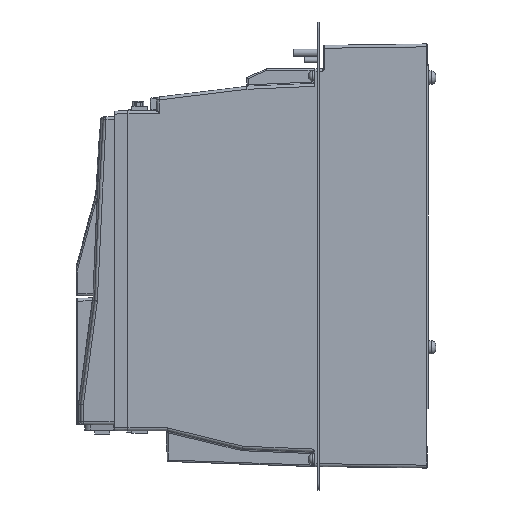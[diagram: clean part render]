
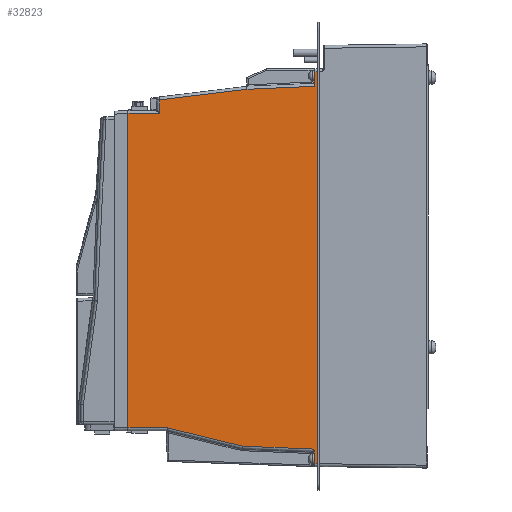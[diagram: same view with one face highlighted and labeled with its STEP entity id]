
A CAD part, left-side view. The second image highlights one B-rep face of the part: STEP entity #32823.
In plain terms, the highlighted planar face has unit normal (-1, 0, 0).
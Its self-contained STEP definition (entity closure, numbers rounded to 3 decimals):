
#587 = CARTESIAN_POINT ( 'NONE',  ( -64., 76.5, -289. ) ) ;
#631 = ORIENTED_EDGE ( 'NONE', *, *, #29192, .T. ) ;
#698 = VECTOR ( 'NONE', #41254, 1000. ) ;
#1431 = VERTEX_POINT ( 'NONE', #40690 ) ;
#2377 = VECTOR ( 'NONE', #34045, 1000. ) ;
#3419 = LINE ( 'NONE', #22280, #18746 ) ;
#3684 = VERTEX_POINT ( 'NONE', #29084 ) ;
#4037 = ORIENTED_EDGE ( 'NONE', *, *, #5081, .T. ) ;
#4062 = ORIENTED_EDGE ( 'NONE', *, *, #23159, .T. ) ;
#4363 = CARTESIAN_POINT ( 'NONE',  ( -64., 74.55, 10. ) ) ;
#5081 = EDGE_CURVE ( 'NONE', #36148, #42212, #30454, .T. ) ;
#6434 = VECTOR ( 'NONE', #38939, 1000. ) ;
#6988 = CARTESIAN_POINT ( 'NONE',  ( -64., 77.5, -277.013 ) ) ;
#7354 = EDGE_LOOP ( 'NONE', ( #22332, #4037, #26455, #21899, #47611, #30565, #4062, #37750, #37128, #631, #33795, #40749, #22693, #47368 ) ) ;
#7551 = CARTESIAN_POINT ( 'NONE',  ( -64., 76.733, -278.099 ) ) ;
#7712 = VECTOR ( 'NONE', #16266, 1000. ) ;
#7800 = CARTESIAN_POINT ( 'NONE',  ( -64., 76.652, -278.27 ) ) ;
#8282 = CARTESIAN_POINT ( 'NONE',  ( -64., 122.835, -30.995 ) ) ;
#8307 = EDGE_CURVE ( 'NONE', #18861, #16126, #18973, .T. ) ;
#9402 = VECTOR ( 'NONE', #33447, 1000. ) ;
#9478 = CARTESIAN_POINT ( 'NONE',  ( -64., 213.846, -34.952 ) ) ;
#9727 = VERTEX_POINT ( 'NONE', #27575 ) ;
#10505 = LINE ( 'NONE', #28865, #9402 ) ;
#10618 = LINE ( 'NONE', #17417, #6434 ) ;
#11036 = CARTESIAN_POINT ( 'NONE',  ( -64., 202.8, -19. ) ) ;
#11168 = CARTESIAN_POINT ( 'NONE',  ( -64., 77.259, -277.308 ) ) ;
#11739 = CARTESIAN_POINT ( 'NONE',  ( -64., 204.2, -262.5 ) ) ;
#11745 = LINE ( 'NONE', #23100, #698 ) ;
#12355 = CARTESIAN_POINT ( 'NONE',  ( -64., 125.725, -275.044 ) ) ;
#13561 = CARTESIAN_POINT ( 'NONE',  ( -64., 202.8, -47.5 ) ) ;
#13738 = EDGE_CURVE ( 'NONE', #24444, #9727, #30196, .T. ) ;
#14207 = VECTOR ( 'NONE', #36668, 1000. ) ;
#14829 = CARTESIAN_POINT ( 'NONE',  ( -64., 74.55, -287. ) ) ;
#15345 = DIRECTION ( 'NONE',  ( 0., 0., -1. ) ) ;
#15634 = AXIS2_PLACEMENT_3D ( 'NONE', #29106, #40478, #39760 ) ;
#16126 = VERTEX_POINT ( 'NONE', #31179 ) ;
#16171 = CARTESIAN_POINT ( 'NONE',  ( -64., 76.5, -279.014 ) ) ;
#16266 = DIRECTION ( 'NONE',  ( 0., 0.999, -0.043 ) ) ;
#16285 = CARTESIAN_POINT ( 'NONE',  ( -64., 177.407, -262.5 ) ) ;
#16377 = VERTEX_POINT ( 'NONE', #6988 ) ;
#16892 = EDGE_CURVE ( 'NONE', #24444, #36148, #11745, .T. ) ;
#17417 = CARTESIAN_POINT ( 'NONE',  ( -64., 232.631, -44.384 ) ) ;
#17467 = B_SPLINE_CURVE_WITH_KNOTS ( 'NONE', 3,
 ( #18918, #11168, #40919, #7551, #7800, #27504, #42271, #16171 ),
 .UNSPECIFIED., .F., .F.,
 ( 4, 2, 2, 4 ),
 ( 0., 0.001, 0.002, 0.002 ),
 .UNSPECIFIED. ) ;
#18600 = LINE ( 'NONE', #44233, #37303 ) ;
#18632 = LINE ( 'NONE', #4363, #36018 ) ;
#18746 = VECTOR ( 'NONE', #22514, 1000. ) ;
#18786 = DIRECTION ( 'NONE',  ( 0., 1., 0. ) ) ;
#18861 = VERTEX_POINT ( 'NONE', #44786 ) ;
#18918 = CARTESIAN_POINT ( 'NONE',  ( -64., 77.5, -277.013 ) ) ;
#18973 = LINE ( 'NONE', #587, #27360 ) ;
#19127 = VERTEX_POINT ( 'NONE', #19492 ) ;
#19329 = CARTESIAN_POINT ( 'NONE',  ( -64., 204.2, 0. ) ) ;
#19461 = EDGE_CURVE ( 'NONE', #16126, #46471, #10505, .T. ) ;
#19492 = CARTESIAN_POINT ( 'NONE',  ( -64., 74.55, -19. ) ) ;
#20006 = VERTEX_POINT ( 'NONE', #8282 ) ;
#21870 = VERTEX_POINT ( 'NONE', #35912 ) ;
#21899 = ORIENTED_EDGE ( 'NONE', *, *, #41005, .T. ) ;
#21927 = LINE ( 'NONE', #29415, #14207 ) ;
#22280 = CARTESIAN_POINT ( 'NONE',  ( -64., 76.5, -289. ) ) ;
#22332 = ORIENTED_EDGE ( 'NONE', *, *, #16892, .T. ) ;
#22514 = DIRECTION ( 'NONE',  ( 0., 0., -1. ) ) ;
#22693 = ORIENTED_EDGE ( 'NONE', *, *, #43670, .T. ) ;
#23100 = CARTESIAN_POINT ( 'NONE',  ( -64., 202.8, -262.5 ) ) ;
#23159 = EDGE_CURVE ( 'NONE', #46471, #19127, #18632, .T. ) ;
#23447 = DIRECTION ( 'NONE',  ( 0., -0.972, -0.236 ) ) ;
#24444 = VERTEX_POINT ( 'NONE', #11739 ) ;
#24671 = DIRECTION ( 'NONE',  ( 0., 1., 0. ) ) ;
#26455 = ORIENTED_EDGE ( 'NONE', *, *, #35641, .T. ) ;
#27360 = VECTOR ( 'NONE', #15345, 1000. ) ;
#27377 = VECTOR ( 'NONE', #18786, 1000. ) ;
#27504 = CARTESIAN_POINT ( 'NONE',  ( -64., 76.535, -278.634 ) ) ;
#27575 = CARTESIAN_POINT ( 'NONE',  ( -64., 204.2, -47.5 ) ) ;
#28865 = CARTESIAN_POINT ( 'NONE',  ( -64., 202.8, -287. ) ) ;
#29084 = CARTESIAN_POINT ( 'NONE',  ( -64., 76.5, -28.98 ) ) ;
#29106 = CARTESIAN_POINT ( 'NONE',  ( -64., 202.8, -289. ) ) ;
#29192 = EDGE_CURVE ( 'NONE', #3684, #20006, #35092, .T. ) ;
#29403 = LINE ( 'NONE', #11036, #27377 ) ;
#29415 = CARTESIAN_POINT ( 'NONE',  ( -64., 182.5, -289. ) ) ;
#29746 = DIRECTION ( 'NONE',  ( 0., 0., 1. ) ) ;
#30196 = LINE ( 'NONE', #19329, #2377 ) ;
#30454 = LINE ( 'NONE', #45685, #33425 ) ;
#30565 = ORIENTED_EDGE ( 'NONE', *, *, #19461, .T. ) ;
#31179 = CARTESIAN_POINT ( 'NONE',  ( -64., 76.5, -287. ) ) ;
#32823 = ADVANCED_FACE ( 'NONE', ( #44109 ), #47746, .F. ) ;
#33425 = VECTOR ( 'NONE', #23447, 1000. ) ;
#33447 = DIRECTION ( 'NONE',  ( 0., -1., 0. ) ) ;
#33795 = ORIENTED_EDGE ( 'NONE', *, *, #36700, .T. ) ;
#34045 = DIRECTION ( 'NONE',  ( 0., 0., 1. ) ) ;
#35092 = LINE ( 'NONE', #9478, #7712 ) ;
#35409 = EDGE_CURVE ( 'NONE', #44539, #3684, #3419, .T. ) ;
#35641 = EDGE_CURVE ( 'NONE', #42212, #16377, #18600, .T. ) ;
#35912 = CARTESIAN_POINT ( 'NONE',  ( -64., 182.5, -38.271 ) ) ;
#36018 = VECTOR ( 'NONE', #29746, 1000. ) ;
#36148 = VERTEX_POINT ( 'NONE', #16285 ) ;
#36668 = DIRECTION ( 'NONE',  ( 0., 0., -1. ) ) ;
#36700 = EDGE_CURVE ( 'NONE', #20006, #21870, #10618, .T. ) ;
#37128 = ORIENTED_EDGE ( 'NONE', *, *, #35409, .T. ) ;
#37303 = VECTOR ( 'NONE', #43983, 1000. ) ;
#37750 = ORIENTED_EDGE ( 'NONE', *, *, #38443, .T. ) ;
#38443 = EDGE_CURVE ( 'NONE', #19127, #44539, #29403, .T. ) ;
#38939 = DIRECTION ( 'NONE',  ( 0., 0.993, -0.121 ) ) ;
#39760 = DIRECTION ( 'NONE',  ( 0., 0., -1. ) ) ;
#39972 = EDGE_CURVE ( 'NONE', #21870, #1431, #21927, .T. ) ;
#40478 = DIRECTION ( 'NONE',  ( 1., 0., 0. ) ) ;
#40690 = CARTESIAN_POINT ( 'NONE',  ( -64., 182.5, -47.5 ) ) ;
#40749 = ORIENTED_EDGE ( 'NONE', *, *, #39972, .T. ) ;
#40919 = CARTESIAN_POINT ( 'NONE',  ( -64., 77.016, -277.606 ) ) ;
#41005 = EDGE_CURVE ( 'NONE', #16377, #18861, #17467, .T. ) ;
#41254 = DIRECTION ( 'NONE',  ( 0., -1., 0. ) ) ;
#41510 = CARTESIAN_POINT ( 'NONE',  ( -64., 76.5, -19. ) ) ;
#42212 = VERTEX_POINT ( 'NONE', #12355 ) ;
#42271 = CARTESIAN_POINT ( 'NONE',  ( -64., 76.5, -278.822 ) ) ;
#43670 = EDGE_CURVE ( 'NONE', #1431, #9727, #46688, .T. ) ;
#43758 = VECTOR ( 'NONE', #24671, 1000. ) ;
#43983 = DIRECTION ( 'NONE',  ( 0., -0.999, -0.041 ) ) ;
#44109 = FACE_OUTER_BOUND ( 'NONE', #7354, .T. ) ;
#44233 = CARTESIAN_POINT ( 'NONE',  ( -64., 76.92, -277.036 ) ) ;
#44539 = VERTEX_POINT ( 'NONE', #41510 ) ;
#44786 = CARTESIAN_POINT ( 'NONE',  ( -64., 76.5, -279.014 ) ) ;
#45685 = CARTESIAN_POINT ( 'NONE',  ( -64., 125.536, -275.09 ) ) ;
#46471 = VERTEX_POINT ( 'NONE', #14829 ) ;
#46688 = LINE ( 'NONE', #13561, #43758 ) ;
#47368 = ORIENTED_EDGE ( 'NONE', *, *, #13738, .F. ) ;
#47611 = ORIENTED_EDGE ( 'NONE', *, *, #8307, .T. ) ;
#47746 = PLANE ( 'NONE',  #15634 ) ;
